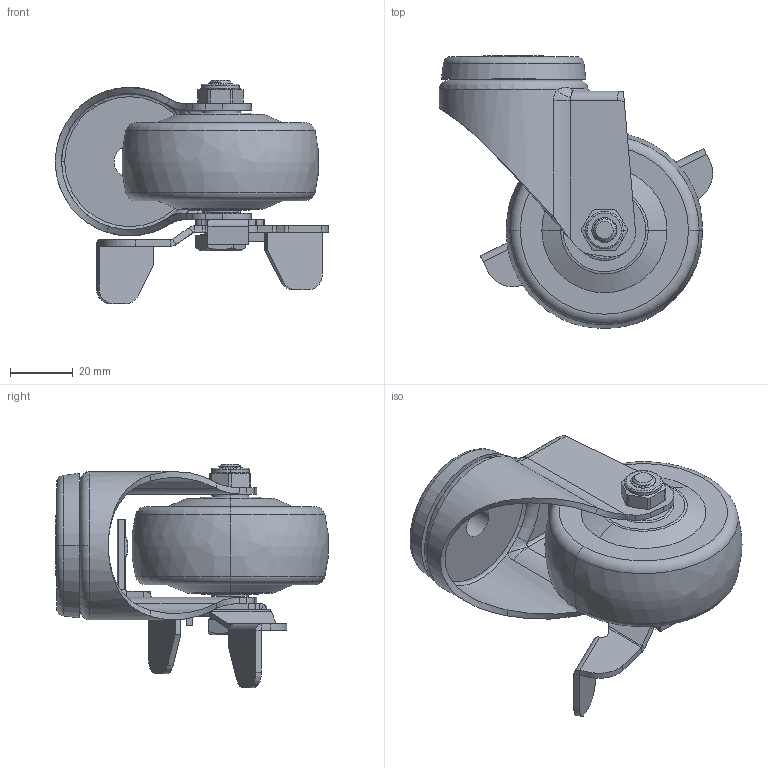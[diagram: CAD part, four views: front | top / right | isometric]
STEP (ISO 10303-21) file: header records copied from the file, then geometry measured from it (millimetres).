
FILE_DESCRIPTION((''),'2;1');
FILE_NAME('361825C-3625-64_ASM','2020-01-05T',('L'),(''),'PRO/ENGINEER BY PARAMETRIC TECHNOLOGY CORPORATION, 2010280','PRO/ENGINEER BY PARAMETRIC TECHNOLOGY CORPORATION, 2010280','');
FILE_SCHEMA(('CONFIG_CONTROL_DESIGN'));
Length unit declared in the file: millimetre
Products named in the file (7): 361825C; 3625-964; 302-33; 300-34; 3025-15; 300-14; 361825C-3625-64_ASM
Assembly tree (6 placements, depth 2):
  361825C-3625-64_ASM
    361825C
    3625-964
    302-33
    300-34
    3025-15
    300-14
Bounding box: 87.35 x 87.16 x 71.4 mm (x, y, z)
Volume: 110142.7 mm3; surface area: 36876.8 mm2
Topology: 7 solids, 7 shells, 354 faces, 832 edges, 506 vertices
Faces by surface type: plane 135, cylinder 115, bspline 44, torus 34, cone 26
Entity records: 15566 total; most frequent: CARTESIAN_POINT 7509, ORIENTED_EDGE 1664, DIRECTION 1606, EDGE_CURVE 832, AXIS2_PLACEMENT_3D 607, VERTEX_POINT 506, VECTOR 392, LINE 392
